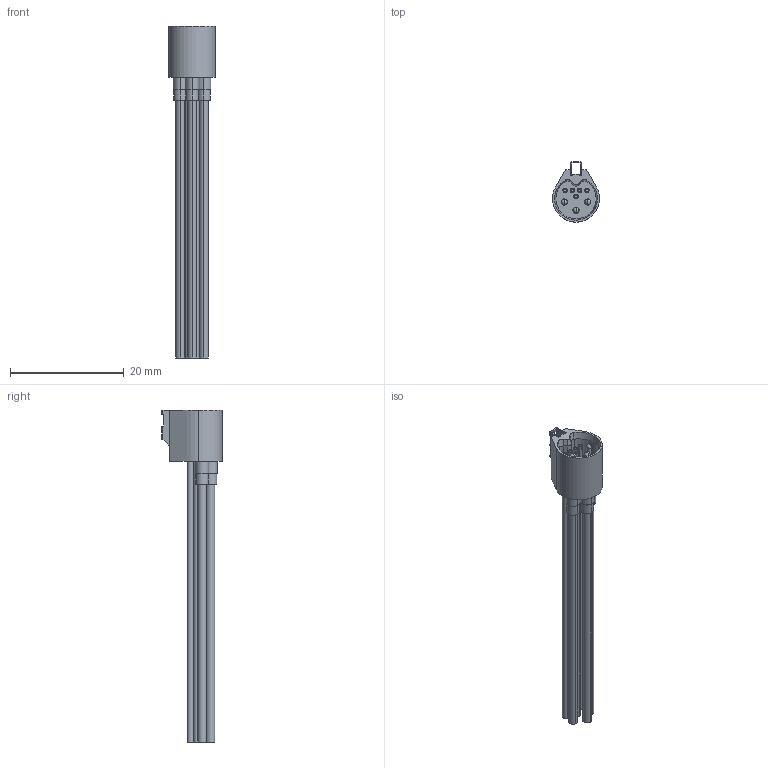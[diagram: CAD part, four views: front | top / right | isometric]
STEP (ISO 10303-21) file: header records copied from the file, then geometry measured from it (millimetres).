
FILE_DESCRIPTION (( 'STEP AP214' ), '1' );
FILE_NAME ('A90111-001 REV B.STEP', '2018-01-24T21:05:13', ( '' ), ( '' ), 'SwSTEP 2.0', 'SolidWorks 2017', '' );
FILE_SCHEMA (( 'AUTOMOTIVE_DESIGN' ));
Length unit declared in the file: inch
Products named in the file (1): A90111-001 REV_B
Bounding box: 8.26 x 10.63 x 58.5 mm (x, y, z)
Volume: 883.8 mm3; surface area: 2444.9 mm2
Topology: 1 solids, 10 shells, 316 faces, 750 edges, 483 vertices
Faces by surface type: cylinder 153, plane 131, torus 14, cone 12, sphere 6
Entity records: 9222 total; most frequent: DIRECTION 1700, CARTESIAN_POINT 1617, ORIENTED_EDGE 1476, EDGE_CURVE 738, AXIS2_PLACEMENT_3D 660, VERTEX_POINT 477, VECTOR 380, LINE 380
